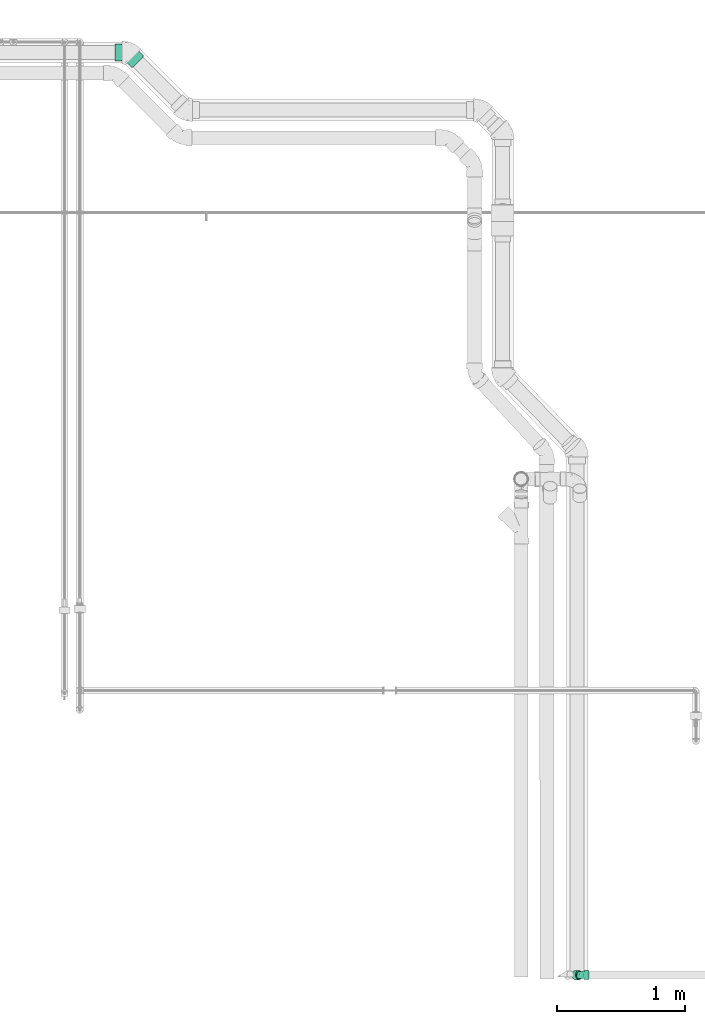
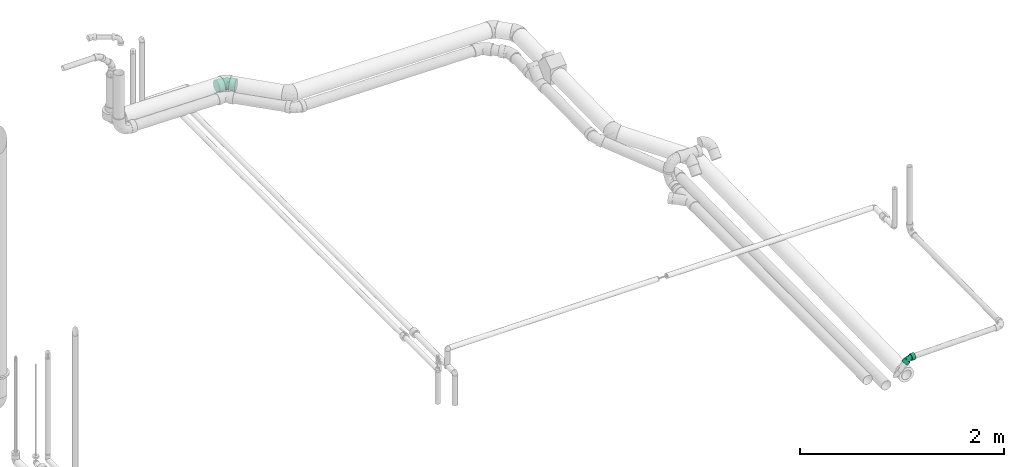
# One storey, part 63 of 78: 2 flow fittings.
"""IFC2X3 building model written with IfcOpenShell, lengths in millimetres."""

from ifc_helpers import new_model, entity, si_unit, converted_unit, derived_unit, direction, frame, origin_with_axes, place, context, subcontext, project, spatial, open_shell, surface_model, source, transform, mapped, type_object, element, save


model = new_model("IFC2X3")

# Units and contexts
model_context = context("Model", 3, precision=0.01, world=frame((0.0, 4.29681676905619e-09, 0.0)), true_north=direction((4.01073788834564e-13, 1.0)))
plan_context = context("Plan", 3, precision=0.01, world=frame((0.0, 4.29681676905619e-09, 0.0)), true_north=direction((4.01073788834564e-13, 1.0)))
body_context = subcontext(model_context, "Body", "Model", "MODEL_VIEW")
ifc_project = project(units=[converted_unit("PLANEANGLEUNIT", "DEGREE", entity("IfcPositiveLengthMeasure", 0.0174532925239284), si_unit("PLANEANGLEUNIT", "RADIAN"), dimensions=[0, 0, 0, 0, 0, 0, 0]), si_unit("AREAUNIT", "SQUARE_METRE"), si_unit("LENGTHUNIT", "METRE", prefix="MILLI"), si_unit("MASSUNIT", "GRAM", prefix="KILO"), si_unit("POWERUNIT", "WATT"), si_unit("PRESSUREUNIT", "PASCAL"), si_unit("FORCEUNIT", "NEWTON", prefix="KILO"), si_unit("ELECTRICVOLTAGEUNIT", "VOLT"), si_unit("ELECTRICCURRENTUNIT", "AMPERE"), si_unit("THERMODYNAMICTEMPERATUREUNIT", "DEGREE_CELSIUS"), si_unit("TIMEUNIT", "SECOND"), si_unit("VOLUMEUNIT", "CUBIC_METRE"), derived_unit("LINEARVELOCITYUNIT", [(si_unit("LENGTHUNIT", "METRE"), 1), (si_unit("TIMEUNIT", "SECOND"), -1)]), derived_unit("VOLUMETRICFLOWRATEUNIT", [(si_unit("VOLUMEUNIT", "CUBIC_METRE"), 1), (si_unit("TIMEUNIT", "SECOND"), -1)]), derived_unit("THERMALTRANSMITTANCEUNIT", [(si_unit("POWERUNIT", "WATT"), 1), (si_unit("THERMODYNAMICTEMPERATUREUNIT", "KELVIN"), -1), (si_unit("AREAUNIT", "SQUARE_METRE"), -1)]), derived_unit("SOUNDPRESSUREUNIT", [(si_unit("PRESSUREUNIT", "PASCAL"), 1)])], contexts=[model_context, plan_context])

# Site, building, storey
site_placement = place(None, frame((0.0, -4.29681676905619e-09, 0.0), z_axis=(0.0, 0.0, 1.0), x_axis=(1.0, 0.0, 0.0)))
site = spatial("IfcSite", under=ifc_project, at=site_placement, Name="ENGM", CompositionType="ELEMENT")
building_placement = place(site_placement, frame((0.0, 4.29681676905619e-09, 0.0), z_axis=(0.0, 0.0, 1.0), x_axis=(1.0, 0.0, 0.0)))
building = spatial("IfcBuilding", under=site, at=building_placement, Name="TH", CompositionType="ELEMENT")
storey_placement = place(building_placement, frame((0.0, 0.0, 205200.0), z_axis=(0.0, 0.0, 1.0), x_axis=(1.0, 0.0, 0.0)))
storey = spatial("IfcBuildingStorey", under=building, at=storey_placement, Name="Nivå D + 1,2 m", CompositionType="ELEMENT", Elevation=205200.0)

# Flow fittings
pipe_fitting_type_1 = type_object("IfcPipeFittingType", Name="magi_sewer_bend_NOR", PredefinedType="BEND")
shared_shape_1 = source(origin_with_axes(), body_context, "Body", "SurfaceModel", [
    surface_model("IfcShellBasedSurfaceModel", [(-62.72439, -9.57631, -35.73926), (-62.72439, -18.5, -32.04294), (-62.72439, -26.16295, -26.16295), (-62.72439, 18.5, -32.04294), (-62.72439, -32.04294, -18.5), (-62.72439, -35.73926, -9.57631), (-62.72439, 37.0, 0.0), (-62.72439, 35.73926, -9.57631), (-62.72439, 0.0, -37.0), (-62.72439, 9.57631, -35.73926), (-62.72439, 26.16295, -26.16295), (-62.72439, 32.04294, -18.5), (-62.72439, -37.0, 0.0), (-62.72439, -35.73926, 9.57631), (-62.72439, -32.04294, 18.5), (-62.72439, -26.16295, 26.16295), (-62.72439, -9.57631, 35.73926), (-62.72439, 0.0, 37.0), (-62.72439, -18.5, 32.04294), (-62.72439, 9.57631, 35.73926), (-62.72439, 35.73926, 9.57631), (-62.72439, 26.16295, 26.16295), (-62.72439, 32.04294, 18.5), (-62.72439, 18.5, 32.04294), (-24.02439, -26.16295, 26.16295), (-24.02439, 0.0, 37.0), (-24.02439, -9.57631, 35.73926), (-24.02439, -18.5, 32.04294), (-24.02439, -32.04294, 18.5), (-24.02439, -35.73926, 9.57631), (-24.02439, 9.57631, 35.73926), (-24.02439, 26.16295, 26.16295), (-24.02439, 18.5, 32.04294), (-24.02439, 35.73926, 9.57631), (-24.02439, 32.04294, 18.5), (-24.02439, 35.73926, -9.57631), (-24.02439, 37.0, 0.0), (-24.02439, -35.73926, -9.57631), (-24.02439, -32.04294, -18.5), (-24.02439, -26.16295, -26.16295), (-24.02439, -18.5, -32.04294), (-24.02439, -9.57631, -35.73926), (-24.02439, 26.16295, -26.16295), (-24.02439, 32.04294, -18.5), (-24.02439, 18.5, -32.04294), (-24.02439, 0.0, -37.0), (-24.02439, 9.57631, -35.73926), (-24.02439, -37.0, 0.0), (19.08137, 69.62431, 9.57631), (21.69506, 67.01062, 18.5), (25.85284, 62.85284, 26.16295), (18.18989, 70.51579, 0.0), (37.58137, 51.12431, 35.73926), (44.35284, 44.35284, 37.0), (31.27136, 57.43432, 32.04294), (25.85284, 62.85284, -26.16295), (21.69506, 67.01062, -18.5), (19.08137, 69.62431, -9.57631), (37.58137, 51.12431, -35.73926), (31.27136, 57.43432, -32.04294), (51.12431, 37.58137, 35.73926), (57.43432, 31.27136, 32.04294), (62.85284, 25.85284, 26.16295), (70.51579, 18.18989, 0.0), (69.62431, 19.08137, 9.57631), (67.01062, 21.69506, 18.5), (62.85284, 25.85284, -26.16295), (51.12431, 37.58137, -35.73926), (57.43432, 31.27136, -32.04294), (44.35284, 44.35284, -37.0), (69.62431, 19.08137, -9.57631), (67.01062, 21.69506, -18.5), (43.15076, -9.17514, 0.0), (42.25928, -8.28366, 9.57631), (39.64559, -5.66997, 18.5), (35.48781, -1.51219, 26.16295), (30.06928, 3.90633, 32.04294), (23.75928, 10.21634, 35.73926), (23.75928, 10.21634, -35.73926), (10.21634, 23.75928, -35.73926), (39.64559, -5.66997, -18.5), (30.06928, 3.90633, -32.04294), (35.48781, -1.51219, -26.16295), (42.25928, -8.28366, -9.57631), (16.98781, 16.98781, -37.0), (-1.51219, 35.48781, 26.16295), (10.21634, 23.75928, 35.73926), (3.90633, 30.06928, 32.04294), (-5.66997, 39.64559, 18.5), (-8.28366, 42.25928, 9.57631), (-5.66997, 39.64559, -18.5), (-1.51219, 35.48781, -26.16295), (3.90633, 30.06928, -32.04294), (-9.17514, 43.15076, 0.0), (-8.28366, 42.25928, -9.57631), (16.98781, 16.98781, 37.0), (-24.02439, 14.5, -25.11474), (-24.02439, 7.50575, -28.01185), (-24.02439, 0.0, -29.0), (-24.02439, 25.11474, -14.5), (-24.02439, -25.11474, -14.5), (-24.02439, 20.5061, -20.5061), (-24.02439, 28.01185, -7.50575), (-24.02439, -14.5, -25.11474), (-24.02439, -20.5061, -20.5061), (-24.02439, -7.50575, -28.01185), (-24.02439, -28.01185, -7.50575), (-24.02439, -29.0, 0.0), (-24.02439, 29.0, 0.0), (-24.02439, 28.01185, 7.50575), (-24.02439, 7.50575, 28.01185), (-24.02439, 25.11474, 14.5), (-24.02439, 20.5061, 20.5061), (-24.02439, 14.5, 25.11474), (-24.02439, 0.0, 29.0), (-24.02439, -25.11474, 14.5), (-24.02439, -20.5061, 20.5061), (-24.02439, -28.01185, 7.50575), (-24.02439, -14.5, 25.11474), (-24.02439, -7.50575, 28.01185), (16.98781, 16.98781, -29.0), (11.68044, 22.29518, -28.01185), (6.73476, 27.24085, -25.11474), (2.48781, 31.48781, -20.5061), (-0.77099, 34.74661, -14.5), (-2.81956, 36.79517, -7.50575), (34.74661, -0.77099, -14.5), (31.48781, 2.48781, 20.5061), (22.29518, 11.68044, -28.01185), (31.48781, 2.48781, -20.5061), (27.24085, 6.73476, -25.11474), (37.4939, -3.51829, 0.0), (36.79517, -2.81956, -7.50575), (36.79517, -2.81956, 7.50575), (-3.51829, 37.4939, 0.0), (-2.81956, 36.79517, 7.50575), (-0.77099, 34.74661, 14.5), (2.48781, 31.48781, 20.5061), (6.73476, 27.24085, 25.11474), (11.68044, 22.29518, 28.01185), (16.98781, 16.98781, 29.0), (34.74661, -0.77099, 14.5), (22.29518, 11.68044, 28.01185), (27.24085, 6.73476, 25.11474), (7.38612, -17.83168, 16.16082), (-6.4158, -16.39013, 22.37753), (-9.36445, -22.17951, 16.98062), (-9.68946, -27.11277, 0.0), (-1.50713, -26.03555, 0.0), (-6.18986, -26.71717, 4.95203), (22.30495, -9.06161, 16.98062), (-11.49089, -10.63406, 26.50451), (2.97765, -7.18868, 26.13912), (0.86079, 17.43419, 27.06737), (5.24253, 13.7273, 28.5782), (-8.6552, -2.79219, 28.6158), (-2.75829, 6.65911, 28.8981), (-14.53033, 4.01857, 28.82401), (-8.23751, 19.8871, 23.67576), (-12.78892, 24.32078, 18.30095), (15.6447, 0.60587, 26.50451), (-11.14271, 12.06769, 27.11091), (11.19164, -18.98012, 11.42912), (-5.1998, -25.08939, 10.07096), (9.00376, -21.73701, 6.30317), (-11.9467, 28.84188, 11.91445), (23.26879, -14.515, 4.95203), (26.0231, -12.32014, 0.0), (-11.61578, 31.07432, 6.09324), (21.41769, -14.06407, 10.07096), (8.09453, 4.14577, 28.6158), (16.12623, -7.05292, 22.37753), (-12.92657, 31.20749, 0.0), (4.86759, -11.75141, 23.12589), (8.98424, -21.68988, 0.0), (19.47561, -17.34421, 0.0), (-8.6552, -2.79219, -28.6158), (-6.18986, -26.71717, -4.95203), (9.00376, -21.73701, -6.30316), (8.09453, 4.14577, -28.6158), (-12.9365, 11.71916, -27.06737), (-13.41369, 5.99964, -28.5782), (-8.15426, 26.24052, -18.30095), (16.12623, -7.05292, -22.37753), (-11.9467, 28.84188, -11.91445), (21.41769, -14.06407, -10.07095), (-13.75926, 30.18646, -6.09324), (-0.65406, 16.41224, -27.11091), (-5.1998, -25.08939, -10.07095), (-8.23751, 19.8871, -23.67576), (-9.36445, -22.17951, -16.98062), (-6.4158, -16.39013, -22.37753), (4.86759, -11.75141, -23.12589), (7.38612, -17.83168, -16.16082), (-11.49089, -10.63406, -26.50451), (15.6447, 0.60587, -26.50451), (2.97765, -7.18868, -26.13912), (23.26879, -14.515, -4.95203), (7.43294, 13.11605, -28.82401), (5.50729, -21.33466, -11.42912), (22.30495, -9.06161, -16.98062), (-2.75829, 6.65911, -28.8981)], [open_shell([[[0, 1, 2]], [[3, 0, 2]], [[3, 4, 5]], [[2, 4, 3]], [[6, 7, 5]], [[8, 3, 9]], [[8, 0, 3]], [[10, 7, 11]], [[7, 10, 3]], [[5, 7, 3]], [[5, 12, 6]], [[13, 14, 15]], [[13, 15, 16]], [[16, 17, 13]], [[16, 15, 18]], [[13, 17, 19]], [[20, 21, 22]], [[20, 6, 13]], [[21, 19, 23]], [[19, 21, 20]], [[13, 19, 20]], [[13, 6, 12]], [[24, 25, 26]], [[24, 26, 27]], [[24, 28, 29]], [[24, 29, 25]], [[25, 29, 30]], [[30, 31, 32]], [[31, 30, 33]], [[31, 33, 34]], [[30, 29, 33]], [[33, 35, 36]], [[33, 29, 35]], [[37, 38, 29]], [[29, 38, 39]], [[39, 40, 41]], [[39, 35, 29]], [[41, 42, 39]], [[35, 42, 43]], [[35, 39, 42]], [[44, 45, 46]], [[45, 44, 42]], [[41, 45, 42]], [[37, 29, 47]], [[35, 7, 36]], [[43, 11, 35]], [[42, 44, 3]], [[43, 42, 10]], [[35, 11, 7]], [[7, 6, 36]], [[8, 9, 46]], [[9, 3, 44]], [[10, 42, 3]], [[10, 11, 43]], [[46, 9, 44]], [[46, 45, 8]], [[0, 41, 40]], [[39, 1, 40]], [[4, 38, 37]], [[39, 38, 2]], [[5, 37, 47]], [[41, 0, 8]], [[40, 1, 0]], [[39, 2, 1]], [[38, 4, 2]], [[5, 4, 37]], [[47, 12, 5]], [[41, 8, 45]], [[29, 13, 47]], [[28, 14, 29]], [[18, 24, 27]], [[28, 24, 15]], [[16, 27, 26]], [[29, 14, 13]], [[13, 12, 47]], [[16, 25, 17]], [[16, 18, 27]], [[15, 24, 18]], [[15, 14, 28]], [[25, 16, 26]], [[19, 30, 32]], [[31, 23, 32]], [[22, 34, 33]], [[31, 34, 21]], [[20, 33, 36]], [[32, 23, 19]], [[19, 17, 30]], [[21, 23, 31]], [[34, 22, 21]], [[20, 22, 33]], [[36, 6, 20]], [[30, 17, 25]], [[48, 49, 50]], [[51, 48, 50]], [[52, 53, 50]], [[52, 50, 54]], [[55, 50, 53]], [[51, 56, 57]], [[56, 51, 55]], [[55, 58, 59]], [[55, 51, 50]], [[53, 58, 55]], [[53, 60, 58]], [[60, 61, 62]], [[63, 58, 62]], [[64, 63, 62]], [[64, 62, 65]], [[63, 66, 58]], [[67, 66, 68]], [[69, 58, 67]], [[66, 70, 71]], [[58, 66, 67]], [[63, 70, 66]], [[62, 58, 60]], [[72, 73, 74]], [[72, 74, 75]], [[75, 76, 77]], [[75, 77, 72]], [[78, 72, 79]], [[80, 81, 82]], [[80, 83, 72]], [[81, 80, 72]], [[72, 78, 81]], [[78, 79, 84]], [[85, 72, 77]], [[77, 86, 85]], [[85, 86, 87]], [[85, 88, 89]], [[85, 90, 72]], [[90, 85, 89]], [[79, 91, 92]], [[91, 79, 90]], [[90, 93, 94]], [[79, 72, 90]], [[89, 93, 90]], [[86, 77, 95]], [[79, 58, 84]], [[92, 59, 79]], [[91, 90, 56]], [[92, 91, 55]], [[79, 59, 58]], [[58, 69, 84]], [[51, 57, 94]], [[57, 56, 90]], [[55, 91, 56]], [[55, 59, 92]], [[94, 57, 90]], [[94, 93, 51]], [[48, 89, 88]], [[85, 49, 88]], [[54, 87, 86]], [[85, 87, 50]], [[52, 86, 95]], [[89, 48, 51]], [[88, 49, 48]], [[85, 50, 49]], [[87, 54, 50]], [[52, 54, 86]], [[95, 53, 52]], [[89, 51, 93]], [[77, 60, 95]], [[76, 61, 77]], [[65, 75, 74]], [[76, 75, 62]], [[64, 74, 73]], [[77, 61, 60]], [[60, 53, 95]], [[64, 72, 63]], [[64, 65, 74]], [[62, 75, 65]], [[62, 61, 76]], [[72, 64, 73]], [[70, 83, 80]], [[82, 71, 80]], [[68, 81, 78]], [[82, 81, 66]], [[67, 78, 84]], [[80, 71, 70]], [[70, 63, 83]], [[66, 71, 82]], [[81, 68, 66]], [[67, 68, 78]], [[84, 69, 67]], [[83, 63, 72]], [[96, 97, 98]], [[99, 96, 98]], [[100, 99, 98]], [[101, 96, 99]], [[102, 99, 100]], [[103, 104, 105]], [[104, 98, 105]], [[106, 107, 100]], [[100, 98, 104]], [[100, 107, 102]], [[107, 108, 102]], [[109, 108, 110]], [[111, 109, 112]], [[109, 110, 113]], [[112, 109, 113]], [[114, 110, 108]], [[115, 116, 117]], [[117, 116, 107]], [[118, 119, 116]], [[114, 116, 119]], [[116, 114, 108]], [[108, 107, 116]], [[120, 121, 122]], [[120, 122, 123]], [[123, 124, 125]], [[120, 123, 126]], [[123, 127, 126]], [[128, 129, 130]], [[129, 128, 126]], [[126, 131, 132]], [[126, 128, 120]], [[126, 133, 131]], [[123, 125, 134]], [[134, 135, 136]], [[134, 136, 137]], [[138, 139, 134]], [[138, 134, 137]], [[134, 139, 140]], [[133, 127, 141]], [[126, 127, 133]], [[127, 142, 143]], [[142, 127, 140]], [[134, 140, 127]], [[127, 123, 134]], [[144, 145, 146]], [[147, 148, 149]], [[118, 116, 145]], [[141, 127, 150]], [[151, 145, 152]], [[146, 145, 116]], [[139, 153, 154]], [[119, 118, 151]], [[155, 156, 157]], [[114, 119, 155]], [[112, 158, 159]], [[143, 142, 160]], [[157, 110, 114]], [[113, 161, 158]], [[117, 147, 149]], [[138, 137, 158]], [[162, 163, 164]], [[158, 112, 113]], [[116, 115, 146]], [[111, 159, 165]], [[109, 111, 165]], [[133, 166, 167]], [[168, 108, 109]], [[169, 162, 164]], [[163, 149, 164]], [[113, 110, 161]], [[140, 154, 170]], [[127, 143, 171]], [[136, 135, 165]], [[170, 142, 140]], [[144, 146, 163]], [[127, 171, 150]], [[156, 154, 153]], [[171, 143, 160]], [[115, 163, 146]], [[166, 133, 169]], [[144, 150, 171]], [[157, 161, 110]], [[144, 162, 150]], [[109, 165, 168]], [[115, 117, 163]], [[172, 168, 134]], [[145, 173, 152]], [[135, 168, 165]], [[152, 170, 155]], [[136, 165, 159]], [[152, 160, 170]], [[136, 159, 137]], [[156, 155, 170]], [[139, 138, 153]], [[153, 158, 161]], [[151, 155, 119]], [[111, 112, 159]], [[169, 133, 141]], [[169, 141, 150]], [[173, 144, 171]], [[137, 159, 158]], [[158, 153, 138]], [[156, 153, 161]], [[145, 151, 118]], [[155, 151, 152]], [[170, 160, 142]], [[171, 160, 152]], [[117, 107, 147]], [[164, 148, 174]], [[117, 149, 163]], [[148, 164, 149]], [[166, 164, 175]], [[167, 166, 175]], [[167, 131, 133]], [[164, 166, 169]], [[170, 154, 156]], [[140, 139, 154]], [[155, 157, 114]], [[161, 157, 156]], [[144, 173, 145]], [[171, 152, 173]], [[134, 168, 135]], [[168, 172, 108]], [[150, 162, 169]], [[163, 162, 144]], [[175, 164, 174]], [[105, 98, 176]], [[148, 177, 178]], [[120, 128, 179]], [[180, 181, 97]], [[99, 182, 101]], [[130, 129, 183]], [[184, 182, 99]], [[126, 132, 185]], [[102, 186, 184]], [[122, 121, 187]], [[106, 177, 147]], [[96, 180, 97]], [[177, 106, 188]], [[123, 189, 182]], [[188, 100, 190]], [[190, 104, 191]], [[104, 103, 191]], [[192, 193, 191]], [[106, 100, 188]], [[104, 190, 100]], [[194, 103, 105]], [[195, 179, 128]], [[125, 124, 184]], [[196, 194, 176]], [[108, 172, 186]], [[193, 190, 191]], [[134, 125, 186]], [[196, 176, 179]], [[123, 122, 189]], [[184, 99, 102]], [[124, 182, 184]], [[194, 191, 103]], [[187, 189, 122]], [[181, 176, 98]], [[189, 187, 180]], [[101, 189, 96]], [[132, 167, 197]], [[198, 121, 120]], [[195, 128, 130]], [[199, 185, 178]], [[129, 200, 183]], [[196, 195, 183]], [[129, 126, 200]], [[201, 198, 179]], [[200, 193, 183]], [[201, 179, 176]], [[197, 167, 175]], [[198, 187, 121]], [[201, 181, 180]], [[177, 188, 178]], [[193, 199, 190]], [[183, 192, 196]], [[126, 185, 200]], [[125, 184, 186]], [[193, 200, 185]], [[124, 123, 182]], [[101, 182, 189]], [[189, 180, 96]], [[201, 180, 187]], [[176, 194, 105]], [[191, 194, 196]], [[183, 195, 130]], [[179, 195, 196]], [[147, 177, 148]], [[147, 107, 106]], [[199, 178, 188]], [[197, 178, 185]], [[178, 175, 174]], [[132, 131, 167]], [[178, 197, 175]], [[132, 197, 185]], [[176, 181, 201]], [[98, 97, 181]], [[179, 198, 120]], [[187, 198, 201]], [[193, 192, 183]], [[191, 196, 192]], [[108, 186, 102]], [[186, 172, 134]], [[190, 199, 188]], [[185, 199, 193]], [[148, 178, 174]]])]),
])
flow_fitting_1_placement = place(storey_placement, frame((903934.81934, 476048.41469, 4272.80504000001), z_axis=(0.000768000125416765, 0.998939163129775, -0.0460430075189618), x_axis=(0.69523528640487, 0.032561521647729, 0.718044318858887)))
element("IfcFlowFitting", 1, at=flow_fitting_1_placement, inside=storey, type_object=pipe_fitting_type_1, Name="magi_sewer_bend_NOR", context=body_context, shape_type="MappedRepresentation", body=[
    mapped(shared_shape_1, transform((0.0, 0.0, 0.0), scale=1.0)),
])
pipe_fitting_type_2 = type_object("IfcPipeFittingType", Name="magi_sewer_bend_001", PredefinedType="BEND")
shared_shape_2 = source(origin_with_axes(), body_context, "Body", "SurfaceModel", [
    surface_model("IfcShellBasedSurfaceModel", [(-105.11084, -16.95265, -63.26814), (-105.11084, -32.75, -56.72466), (-105.11084, -46.3155, -46.3155), (-105.11084, -63.26814, -16.95265), (-105.11084, 56.72466, -32.75), (-105.11084, -56.72466, -32.75), (-105.11084, -65.5, 0.0), (-105.11084, 16.95265, -63.26814), (-105.11084, 0.0, -65.5), (-105.11084, 32.75, -56.72466), (-105.11084, 46.3155, -46.3155), (-105.11084, 63.26814, -16.95265), (-105.11084, -63.26814, 16.95265), (-105.11084, -56.72466, 32.75), (-105.11084, -46.3155, 46.3155), (-105.11084, 63.26814, 16.95265), (-105.11084, -16.95265, 63.26814), (-105.11084, 0.0, 65.5), (-105.11084, -32.75, 56.72466), (-105.11084, 46.3155, 46.3155), (-105.11084, 56.72466, 32.75), (-105.11084, 65.5, 0.0), (-105.11084, 16.95265, 63.26814), (-105.11084, 32.75, 56.72466), (-50.11084, -16.95265, 63.26814), (-50.11084, 16.95265, 63.26814), (-50.11084, 0.0, 65.5), (-50.11084, -46.3155, 46.3155), (-50.11084, -32.75, 56.72466), (-50.11084, -56.72466, 32.75), (-50.11084, -63.26814, 16.95265), (-50.11084, 46.3155, 46.3155), (-50.11084, 32.75, 56.72466), (-50.11084, 63.26814, 16.95265), (-50.11084, 56.72466, 32.75), (-50.11084, 63.26814, -16.95265), (-50.11084, 65.5, 0.0), (-50.11084, -63.26814, -16.95265), (-50.11084, 32.75, -56.72466), (-50.11084, -65.5, 0.0), (-50.11084, -16.95265, -63.26814), (-50.11084, -56.72466, -32.75), (-50.11084, -46.3155, -46.3155), (-50.11084, -32.75, -56.72466), (-50.11084, 0.0, -65.5), (-50.11084, 46.3155, -46.3155), (-50.11084, 56.72466, -32.75), (-50.11084, 16.95265, -63.26814), (51.17923, 97.47583, 56.72466), (29.60238, 119.05816, 16.95265), (34.22873, 114.43063, 32.75), (41.58819, 107.0693, 46.3155), (62.34822, 86.30399, 63.26814), (86.31984, 62.32628, 63.26814), (107.07986, 41.56098, 46.3155), (41.58819, 107.0693, -46.3155), (28.02442, 120.63651, 0.0), (34.22873, 114.43063, -32.75), (29.60238, 119.05816, -16.95265), (51.17923, 97.47583, -56.72466), (86.31984, 62.32628, -63.26814), (62.34822, 86.30399, -63.26814), (74.33403, 74.31514, 65.5), (97.48884, 51.15445, 56.72466), (114.43933, 34.19965, 32.75), (119.06567, 29.57212, 16.95265), (120.64364, 27.99376, 0.0), (119.06567, 29.57212, -16.95265), (107.07986, 41.56098, -46.3155), (97.48884, 51.15445, -56.72466), (74.33403, 74.31514, -65.5), (114.43933, 34.19965, -32.75), (80.16986, -9.31381, 16.95265), (80.16986, -9.31381, -16.95265), (81.74782, -10.89217, 0.0), (75.54351, -4.68628, 32.75), (68.18405, 2.67505, 46.3155), (58.59302, 12.26852, 56.72466), (47.42402, 23.44035, 63.26814), (75.54351, -4.68628, -32.75), (58.59302, 12.26852, -56.72466), (68.18405, 2.67505, -46.3155), (47.42402, 23.44035, -63.26814), (23.4524, 47.41806, -63.26814), (35.43821, 35.42921, -65.5), (23.4524, 47.41806, 63.26814), (-9.29343, 80.17222, 16.95265), (12.28341, 58.5899, 56.72466), (-4.66708, 75.5447, 32.75), (2.69238, 68.18337, 46.3155), (2.69238, 68.18337, -46.3155), (12.28341, 58.5899, -56.72466), (-4.66708, 75.5447, -32.75), (-10.8714, 81.75059, 0.0), (-9.29343, 80.17222, -16.95265), (35.43821, 35.42921, 65.5), (-50.11084, 15.65855, -58.43851), (-50.11084, 0.0, -60.5), (-50.11084, 58.43851, -15.65855), (-50.11084, 30.25, -52.39454), (-50.11084, 52.39454, -30.25), (-50.11084, 42.77996, -42.77996), (-50.11084, -60.5, 0.0), (-50.11084, -30.25, -52.39454), (-50.11084, -42.77996, -42.77996), (-50.11084, -15.65855, -58.43851), (-50.11084, -58.43851, -15.65855), (-50.11084, -52.39454, -30.25), (-50.11084, -58.43851, 15.65855), (-50.11084, 58.43851, 15.65855), (-50.11084, 52.39454, 30.25), (-50.11084, 42.77996, 42.77996), (-50.11084, 30.25, 52.39454), (-50.11084, 15.65855, 58.43851), (-50.11084, -52.39454, 30.25), (-50.11084, -42.77996, 42.77996), (-50.11084, -30.25, 52.39454), (-50.11084, -15.65855, 58.43851), (-50.11084, 0.0, 60.5), (-50.11084, 60.5, 0.0), (35.43821, 35.42921, -60.5), (24.36735, 46.50288, -58.43851), (14.05095, 56.8219, -52.39454), (5.19206, 65.68305, -42.77996), (-1.60561, 72.48245, -30.25), (-5.8788, 76.75672, -15.65855), (78.21274, -7.35619, 0.0), (46.50908, 24.35553, -58.43851), (65.68437, 5.17536, -42.77996), (56.82547, 14.03651, -52.39454), (72.48204, -1.62403, -30.25), (76.75523, -5.89831, -15.65855), (-5.8788, 76.75672, 15.65855), (76.75523, -5.89831, 15.65855), (5.19206, 65.68305, 42.77996), (-1.60561, 72.48245, 30.25), (14.05095, 56.8219, 52.39454), (24.36735, 46.50288, 58.43851), (65.68437, 5.17536, 42.77996), (72.48204, -1.62403, 30.25), (56.82547, 14.03651, 52.39454), (46.50908, 24.35553, 58.43851), (35.43821, 35.42921, 60.5), (-7.33631, 78.2146, 0.0), (15.40767, -37.20409, 33.71585), (-13.37927, -34.19363, 46.68451), (-19.52791, -46.27099, 35.42534), (-20.20509, -56.56348, 0.0), (-3.1426, -54.31754, 0.0), (-12.90789, -55.73818, 10.33161), (46.52444, -18.91613, 35.42534), (-23.96851, -22.18529, 55.29411), (6.21199, -14.99976, 54.53207), (1.79894, 36.36844, 56.46791), (10.93519, 28.63319, 59.6197), (-18.05011, -5.82527, 59.69855), (-5.75251, 13.8903, 60.28733), (-30.30844, 8.38329, 60.1328), (-17.18143, 41.48709, 49.39209), (-26.67174, 50.73823, 38.17934), (32.63582, 1.25678, 55.29411), (-23.23846, 25.17566, 56.55884), (23.3426, -39.60238, 23.845), (-10.84316, -52.34242, 21.01068), (18.78198, -45.35187, 13.15166), (-24.91823, 60.16875, 24.85546), (48.53625, -30.29176, 10.33161), (54.28031, -25.71616, 0.0), (-24.23027, 64.8246, 12.71147), (44.67523, -29.35009, 21.01068), (16.88354, 8.64212, 59.69855), (33.63725, -14.72225, 46.68451), (-26.96204, 65.10382, 0.0), (10.1535, -24.51715, 48.24749), (18.74162, -45.25442, 0.0), (40.62585, -36.1913, 0.0), (-18.05011, -5.82527, -59.69855), (-12.90789, -55.73818, -10.33161), (18.78198, -45.35187, -13.15166), (16.88354, 8.64212, -59.69855), (-26.98531, 24.44776, -56.46791), (-27.97748, 12.51793, -59.6197), (-17.01063, 54.73928, -38.17933), (33.63725, -14.72225, -46.68451), (-24.91824, 60.16875, -24.85546), (44.67523, -29.35009, -21.01068), (-28.69653, 62.97495, -12.71147), (-1.36546, 34.23413, -56.55884), (-10.84316, -52.34242, -21.01068), (-17.18143, 41.48709, -49.39209), (-19.52791, -46.27099, -35.42534), (-13.37927, -34.19363, -46.68451), (10.1535, -24.51715, -48.24749), (15.40767, -37.20409, -33.71585), (-23.96851, -22.18529, -55.29411), (32.63582, 1.25678, -55.29411), (6.21199, -14.99976, -54.53207), (48.53626, -30.29176, -10.33161), (15.5069, 27.35722, -60.1328), (11.49174, -44.51029, -23.845), (46.52444, -18.91613, -35.42534), (-5.75251, 13.8903, -60.28733)], [open_shell([[[0, 1, 2]], [[0, 2, 3]], [[0, 3, 4]], [[3, 2, 5]], [[4, 3, 6]], [[0, 7, 8]], [[0, 9, 7]], [[10, 9, 0]], [[0, 4, 10]], [[6, 11, 4]], [[6, 12, 11]], [[12, 13, 14]], [[11, 14, 15]], [[16, 17, 14]], [[16, 14, 18]], [[15, 14, 17]], [[15, 19, 20]], [[21, 11, 15]], [[19, 22, 23]], [[22, 19, 15]], [[17, 22, 15]], [[11, 12, 14]], [[24, 25, 26]], [[27, 24, 28]], [[27, 29, 30]], [[24, 27, 25]], [[30, 25, 27]], [[25, 31, 32]], [[31, 25, 33]], [[31, 33, 34]], [[25, 30, 33]], [[33, 35, 36]], [[33, 30, 35]], [[37, 38, 39]], [[40, 37, 41]], [[42, 43, 40]], [[42, 40, 41]], [[44, 37, 40]], [[39, 45, 46]], [[46, 35, 39]], [[38, 44, 47]], [[38, 45, 39]], [[38, 37, 44]], [[39, 35, 30]], [[35, 11, 36]], [[46, 4, 35]], [[47, 44, 7]], [[45, 10, 46]], [[35, 4, 11]], [[11, 21, 36]], [[9, 38, 7]], [[9, 10, 45]], [[38, 47, 7]], [[10, 4, 46]], [[45, 38, 9]], [[44, 8, 7]], [[0, 40, 43]], [[42, 1, 43]], [[5, 41, 37]], [[42, 41, 2]], [[3, 37, 39]], [[40, 0, 8]], [[43, 1, 0]], [[42, 2, 1]], [[41, 5, 2]], [[3, 5, 37]], [[39, 6, 3]], [[40, 8, 44]], [[30, 12, 39]], [[29, 13, 30]], [[28, 18, 27]], [[27, 14, 29]], [[30, 13, 12]], [[12, 6, 39]], [[17, 16, 24]], [[16, 18, 28]], [[14, 27, 18]], [[14, 13, 29]], [[24, 16, 28]], [[24, 26, 17]], [[22, 25, 32]], [[31, 23, 32]], [[20, 34, 33]], [[31, 34, 19]], [[15, 33, 36]], [[25, 22, 17]], [[32, 23, 22]], [[31, 19, 23]], [[34, 20, 19]], [[15, 20, 33]], [[36, 21, 15]], [[25, 17, 26]], [[48, 49, 50]], [[48, 50, 51]], [[49, 52, 53]], [[52, 49, 48]], [[54, 55, 49]], [[56, 57, 58]], [[56, 49, 57]], [[59, 60, 61]], [[57, 49, 55]], [[59, 55, 60]], [[53, 52, 62]], [[53, 63, 54]], [[55, 54, 60]], [[64, 65, 66]], [[54, 64, 67]], [[66, 67, 64]], [[60, 68, 69]], [[70, 61, 60]], [[60, 71, 68]], [[60, 54, 71]], [[67, 71, 54]], [[49, 53, 54]], [[72, 73, 74]], [[75, 73, 72]], [[76, 77, 78]], [[73, 75, 76]], [[78, 73, 76]], [[79, 80, 81]], [[82, 79, 73]], [[79, 82, 80]], [[73, 78, 82]], [[82, 83, 84]], [[82, 78, 85]], [[82, 85, 86]], [[86, 85, 87]], [[88, 86, 87]], [[88, 87, 89]], [[86, 90, 82]], [[82, 91, 83]], [[90, 91, 82]], [[92, 93, 94]], [[92, 90, 86]], [[93, 92, 86]], [[85, 78, 95]], [[83, 61, 84]], [[91, 59, 83]], [[94, 93, 58]], [[90, 55, 91]], [[83, 59, 61]], [[61, 70, 84]], [[57, 92, 58]], [[57, 55, 90]], [[92, 94, 58]], [[55, 59, 91]], [[90, 92, 57]], [[93, 56, 58]], [[49, 86, 88]], [[89, 50, 88]], [[48, 87, 85]], [[89, 87, 51]], [[52, 85, 95]], [[86, 49, 56]], [[88, 50, 49]], [[89, 51, 50]], [[87, 48, 51]], [[52, 48, 85]], [[95, 62, 52]], [[86, 56, 93]], [[78, 53, 95]], [[77, 63, 78]], [[75, 64, 76]], [[76, 54, 77]], [[78, 63, 53]], [[53, 62, 95]], [[66, 65, 72]], [[65, 64, 75]], [[54, 76, 64]], [[54, 63, 77]], [[72, 65, 75]], [[72, 74, 66]], [[67, 73, 79]], [[81, 71, 79]], [[69, 80, 82]], [[81, 80, 68]], [[60, 82, 84]], [[73, 67, 66]], [[79, 71, 67]], [[81, 68, 71]], [[80, 69, 68]], [[60, 69, 82]], [[84, 70, 60]], [[73, 66, 74]], [[96, 97, 98]], [[99, 96, 98]], [[98, 100, 101]], [[99, 98, 101]], [[102, 98, 97]], [[103, 104, 105]], [[104, 97, 105]], [[106, 102, 107]], [[104, 107, 102]], [[104, 102, 97]], [[102, 108, 98]], [[109, 98, 108]], [[110, 109, 111]], [[112, 109, 108]], [[111, 109, 112]], [[113, 112, 108]], [[114, 115, 108]], [[116, 108, 115]], [[117, 118, 116]], [[108, 116, 118]], [[118, 113, 108]], [[119, 98, 109]], [[120, 121, 122]], [[120, 122, 123]], [[123, 124, 125]], [[123, 125, 120]], [[120, 125, 126]], [[127, 128, 129]], [[128, 127, 126]], [[130, 126, 131]], [[126, 130, 128]], [[127, 120, 126]], [[125, 132, 126]], [[133, 126, 132]], [[134, 132, 135]], [[132, 136, 133]], [[136, 132, 134]], [[137, 133, 136]], [[133, 138, 139]], [[138, 133, 140]], [[133, 141, 140]], [[141, 133, 142]], [[133, 137, 142]], [[132, 125, 143]], [[144, 145, 146]], [[147, 148, 149]], [[116, 115, 145]], [[139, 138, 150]], [[151, 145, 152]], [[146, 145, 115]], [[137, 153, 154]], [[117, 116, 151]], [[155, 156, 157]], [[118, 117, 155]], [[111, 158, 159]], [[140, 141, 160]], [[157, 113, 118]], [[112, 161, 158]], [[108, 147, 149]], [[136, 134, 158]], [[162, 163, 164]], [[158, 111, 112]], [[115, 114, 146]], [[110, 159, 165]], [[109, 110, 165]], [[133, 166, 167]], [[168, 119, 109]], [[169, 162, 164]], [[163, 149, 164]], [[112, 113, 161]], [[142, 154, 170]], [[138, 140, 171]], [[135, 132, 165]], [[170, 141, 142]], [[144, 146, 163]], [[138, 171, 150]], [[156, 154, 153]], [[171, 140, 160]], [[114, 163, 146]], [[166, 133, 169]], [[144, 150, 171]], [[157, 161, 113]], [[144, 162, 150]], [[109, 165, 168]], [[114, 108, 163]], [[172, 168, 143]], [[145, 173, 152]], [[132, 168, 165]], [[152, 170, 155]], [[135, 165, 159]], [[152, 160, 170]], [[135, 159, 134]], [[156, 155, 170]], [[137, 136, 153]], [[153, 158, 161]], [[151, 155, 117]], [[110, 111, 159]], [[169, 133, 139]], [[169, 139, 150]], [[173, 144, 171]], [[134, 159, 158]], [[158, 153, 136]], [[156, 153, 161]], [[145, 151, 116]], [[155, 151, 152]], [[170, 160, 141]], [[171, 160, 152]], [[108, 102, 147]], [[164, 148, 174]], [[108, 149, 163]], [[148, 164, 149]], [[166, 164, 175]], [[167, 166, 175]], [[167, 126, 133]], [[164, 166, 169]], [[170, 154, 156]], [[142, 137, 154]], [[155, 157, 118]], [[161, 157, 156]], [[144, 173, 145]], [[171, 152, 173]], [[143, 168, 132]], [[168, 172, 119]], [[150, 162, 169]], [[163, 162, 144]], [[175, 164, 174]], [[105, 97, 176]], [[148, 177, 178]], [[120, 127, 179]], [[180, 181, 96]], [[100, 182, 101]], [[129, 128, 183]], [[184, 182, 100]], [[130, 131, 185]], [[98, 186, 184]], [[122, 121, 187]], [[106, 177, 147]], [[99, 180, 96]], [[177, 106, 188]], [[123, 189, 182]], [[188, 107, 190]], [[190, 104, 191]], [[104, 103, 191]], [[192, 193, 191]], [[106, 107, 188]], [[104, 190, 107]], [[194, 103, 105]], [[195, 179, 127]], [[125, 124, 184]], [[196, 194, 176]], [[119, 172, 186]], [[193, 190, 191]], [[143, 125, 186]], [[196, 176, 179]], [[123, 122, 189]], [[184, 100, 98]], [[124, 182, 184]], [[194, 191, 103]], [[187, 189, 122]], [[181, 176, 97]], [[189, 187, 180]], [[101, 189, 99]], [[131, 167, 197]], [[198, 121, 120]], [[195, 127, 129]], [[199, 185, 178]], [[128, 200, 183]], [[196, 195, 183]], [[128, 130, 200]], [[201, 198, 179]], [[200, 193, 183]], [[201, 179, 176]], [[197, 167, 175]], [[198, 187, 121]], [[201, 181, 180]], [[177, 188, 178]], [[193, 199, 190]], [[183, 192, 196]], [[130, 185, 200]], [[125, 184, 186]], [[193, 200, 185]], [[124, 123, 182]], [[101, 182, 189]], [[189, 180, 99]], [[201, 180, 187]], [[176, 194, 105]], [[191, 194, 196]], [[183, 195, 129]], [[179, 195, 196]], [[147, 177, 148]], [[147, 102, 106]], [[199, 178, 188]], [[197, 178, 185]], [[178, 175, 174]], [[131, 126, 167]], [[178, 197, 175]], [[131, 197, 185]], [[176, 181, 201]], [[97, 96, 181]], [[179, 198, 120]], [[187, 198, 201]], [[193, 192, 183]], [[191, 196, 192]], [[119, 186, 98]], [[186, 172, 143]], [[190, 199, 188]], [[185, 199, 193]], [[148, 178, 174]]])]),
])
flow_fitting_2_placement = place(storey_placement, frame((900391.56217, 483269.44478, 4414.49783000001), z_axis=(0.0166639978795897, -0.00982499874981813, 0.999812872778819), x_axis=(-0.706982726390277, 0.706982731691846, 0.0187307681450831)))
element("IfcFlowFitting", 2, at=flow_fitting_2_placement, inside=storey, type_object=pipe_fitting_type_2, Name="magi_sewer_bend_001", context=body_context, shape_type="MappedRepresentation", body=[
    mapped(shared_shape_2, transform((0.0, 0.0, 0.0), scale=1.0)),
])

save(model, "model.ifc")
